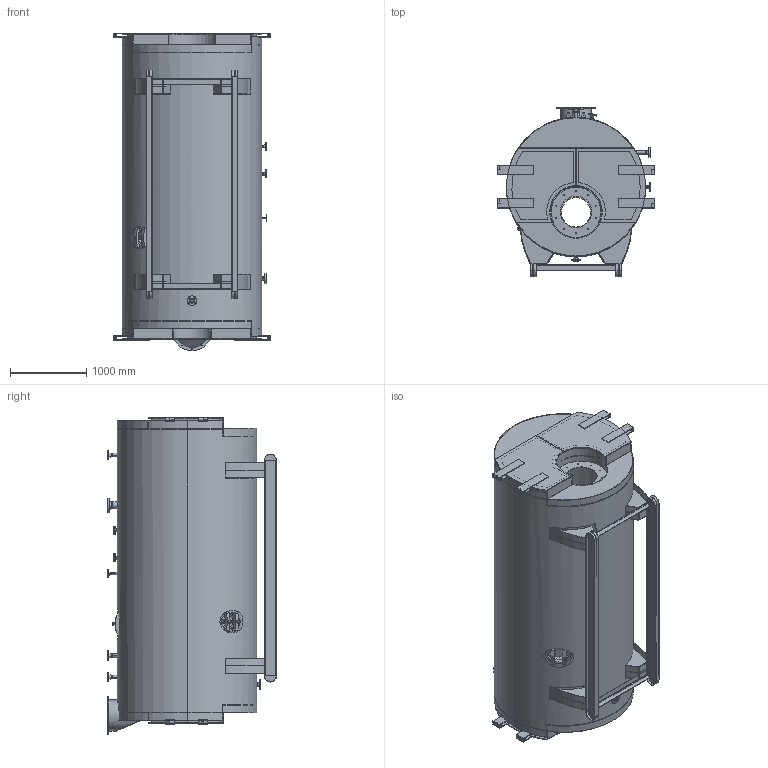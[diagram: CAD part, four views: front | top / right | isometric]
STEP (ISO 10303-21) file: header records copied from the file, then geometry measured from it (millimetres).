
FILE_DESCRIPTION (( 'STEP AP214' ), '1' );
FILE_NAME ('1750kW.STEP', '2024-05-06T06:52:35', ( '' ), ( '' ), 'SwSTEP 2.0', 'SolidWorks 2022', '' );
FILE_SCHEMA (( 'AUTOMOTIVE_DESIGN' ));
Length unit declared in the file: millimetre
Products named in the file (57): Man 2; Cover; pipe1.5''''(80); 0.5''''(80); FD6; Front Door (Right); head 2; 1''''(80); welding neck flange_WNeck Flange 150-NPS1.5; Headhole assy; RD2; 80-80-6; head 3; Rear Door (Right); welding neck flange_WNeck Flange 150-NPS0.5; welding neck flange_WNeck Flange 150-NPS3; 3''''(40); U plate; Front Door; 1750kW; Man 1; NozzlePipe(3(40); FD1; Saddle; pipe 0.5''''(80); Front Door (left); FL Door and Hing; Rear Door (Left); head 1; FD7; RD1; FD15; pipe 1.5''''(80) for N8; Shell; Man 3; hex bolt gradeab_din_PreviewCfg; 1.5''''(80) for N8; 1.5''''(80); Manhole assy; pipe 1''''(80)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
Assembly tree (98 placements, depth 5):
  1750kW
    Shell
    Saddle  x4
    IPN
      IPN160  x2
      U plate  x4
      mid U plate  x4
    80-80-6  x2
    1''''(80)  x5
      welding neck flange_WNeck Flange 150-NPS1
      pipe 1''''(80)
    1.5''''(80)  x4
      welding neck flange_WNeck Flange 150-NPS1.5
      pipe1.5''''(80)
    3''''(40)
      NozzlePipe(3(40)
      welding neck flange_WNeck Flange 150-NPS3
    Manhole assy
      Man 2
      Man 1  x2
      Man 3
      hex bolt gradeab_din_PreviewCfg  x2
    Headhole assy
      head 2
      head 1  x2
      head 3
      hex bolt gradeab_din_PreviewCfg  x2
    Front Door
      FD1
      FD2
      Front Door (left)
        Front Door (left)
        FL Door and Hing
          FD15  x4
          FD6
          FD7
      Front Door (Right)
        Front Door (Right)
        FL Door and Hing
          FD15  x4
          FD6
          FD7
    Rear Door
      RD1
      Stack(1500)
      RD2
      Rear Door (Left)
        Rear Door (Left)
        FL Door and Hing
          FD15  x4
          FD6
          FD7
      Rear Door (Right)
        Rear Door (Right)
        FL Door and Hing
          FD15  x4
          FD6
          FD7
    Cover
    1.5''''(80) for N8
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Bounding box: 2060 x 2220 x 4180 mm (x, y, z)
Volume: 607336844.4 mm3; surface area: 123162031.6 mm2
Topology: 136 solids, 136 shells, 1679 faces, 4047 edges, 2618 vertices
Faces by surface type: plane 817, cylinder 745, cone 56, bspline 53, torus 8
Full cylindrical faces by diameter (mm): 398 x1, 410 x1
Entity records: 43661 total; most frequent: CARTESIAN_POINT 14651, DIRECTION 5726, ORIENTED_EDGE 5308, EDGE_CURVE 2654, AXIS2_PLACEMENT_3D 2127, VERTEX_POINT 1718, LINE 1472, VECTOR 1472
